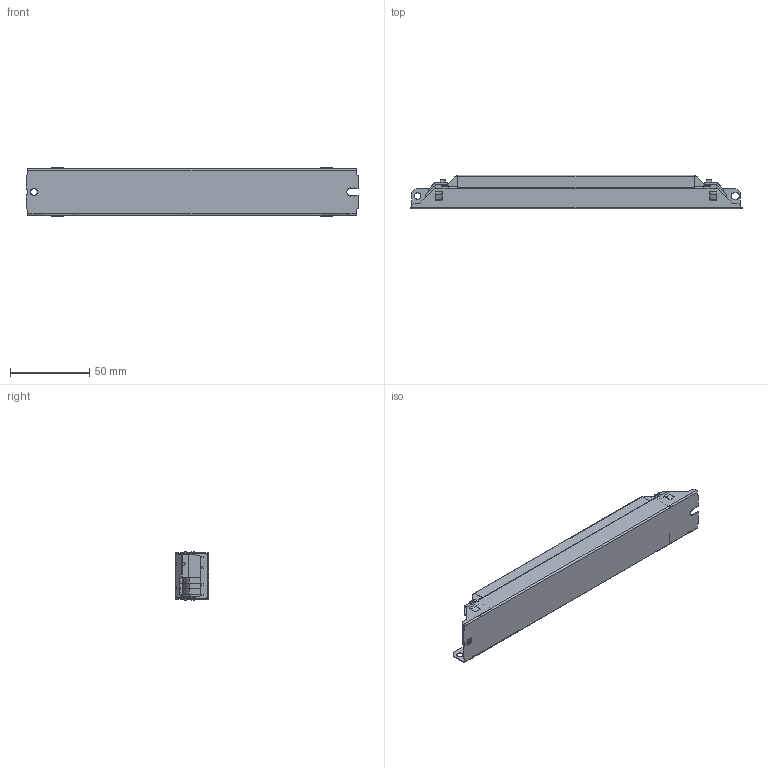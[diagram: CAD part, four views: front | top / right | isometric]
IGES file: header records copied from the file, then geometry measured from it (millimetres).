
Start section: SolidWorks IGES file using analytic representation for surfaces
Global section: file name: D:\ECTR_TEMP\OLQ-batchEngine\queue\temp\4168988swm000.igs; native system: SolidWorks 2017; preprocessor: SolidWorks 2017; author: SYSTEM; date: 191125.155722; units: millimetre
Bounding box: 209 x 21 x 31.39 mm (x, y, z)
Surface area: 26607.7 mm2 (no closed solid volume)
Topology: 0 solids, 0 shells, 745 faces, 5371 edges, 5371 vertices
Faces by surface type: bspline 594, revolution 151
